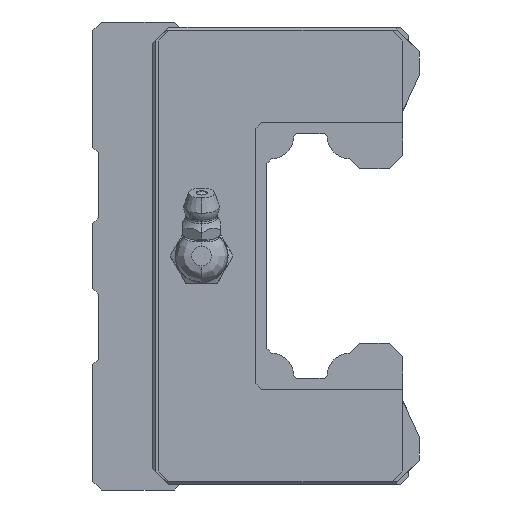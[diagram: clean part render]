
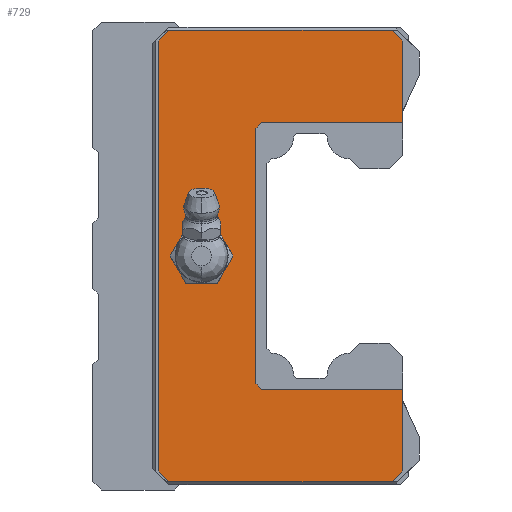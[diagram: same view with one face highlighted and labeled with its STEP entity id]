
A CAD part, left-side view. The second image highlights one B-rep face of the part: STEP entity #729.
In plain terms, the highlighted planar face has unit normal (-1, 0, 0).
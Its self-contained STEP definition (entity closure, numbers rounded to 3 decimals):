
#19 = EDGE_CURVE ( 'NONE', #4120, #2886, #4048, .T. ) ;
#55 = VECTOR ( 'NONE', #6844, 1000. ) ;
#68 = DIRECTION ( 'NONE',  ( 0., -0.707, 0.707 ) ) ;
#132 = CARTESIAN_POINT ( 'NONE',  ( -68., 58., 39.5 ) ) ;
#200 = EDGE_LOOP ( 'NONE', ( #3987, #1244, #5033, #3670, #1197, #5395, #2801, #3281, #5350, #460, #7862, #6059, #700, #309 ) ) ;
#216 = LINE ( 'NONE', #1596, #3353 ) ;
#228 = EDGE_CURVE ( 'NONE', #715, #1853, #6991, .T. ) ;
#235 = VERTEX_POINT ( 'NONE', #3933 ) ;
#309 = ORIENTED_EDGE ( 'NONE', *, *, #2696, .T. ) ;
#320 = VECTOR ( 'NONE', #1275, 1000. ) ;
#369 = DIRECTION ( 'NONE',  ( 0., -0.707, -0.707 ) ) ;
#424 = VECTOR ( 'NONE', #369, 1000. ) ;
#460 = ORIENTED_EDGE ( 'NONE', *, *, #2122, .T. ) ;
#488 = LINE ( 'NONE', #1682, #2569 ) ;
#507 = LINE ( 'NONE', #4003, #6034 ) ;
#529 = VERTEX_POINT ( 'NONE', #7470 ) ;
#571 = DIRECTION ( 'NONE',  ( 0., 0., 1. ) ) ;
#700 = ORIENTED_EDGE ( 'NONE', *, *, #2011, .T. ) ;
#708 = EDGE_CURVE ( 'NONE', #7189, #961, #4121, .T. ) ;
#715 = VERTEX_POINT ( 'NONE', #7100 ) ;
#729 = ADVANCED_FACE ( 'NONE', ( #2254, #1619 ), #2783, .F. ) ;
#834 = EDGE_LOOP ( 'NONE', ( #2347, #3882 ) ) ;
#848 = DIRECTION ( 'NONE',  ( 0., 0.707, -0.707 ) ) ;
#863 = CARTESIAN_POINT ( 'NONE',  ( -68., 15., -41.5 ) ) ;
#885 = DIRECTION ( 'NONE',  ( 0., 0.707, 0.707 ) ) ;
#894 = EDGE_CURVE ( 'NONE', #2692, #715, #2565, .T. ) ;
#961 = VERTEX_POINT ( 'NONE', #863 ) ;
#976 = CARTESIAN_POINT ( 'NONE',  ( -68., 56., -41.5 ) ) ;
#1197 = ORIENTED_EDGE ( 'NONE', *, *, #3400, .T. ) ;
#1244 = ORIENTED_EDGE ( 'NONE', *, *, #4142, .T. ) ;
#1275 = DIRECTION ( 'NONE',  ( 0., 0., 1. ) ) ;
#1369 = CARTESIAN_POINT ( 'NONE',  ( -68., 40., 23.5 ) ) ;
#1398 = VERTEX_POINT ( 'NONE', #3252 ) ;
#1400 = CARTESIAN_POINT ( 'NONE',  ( -68., 15., 41.5 ) ) ;
#1460 = VERTEX_POINT ( 'NONE', #7151 ) ;
#1551 = CARTESIAN_POINT ( 'NONE',  ( -68., 50., 4.864 ) ) ;
#1596 = CARTESIAN_POINT ( 'NONE',  ( -68., 58., 39.5 ) ) ;
#1619 = FACE_BOUND ( 'NONE', #834, .T. ) ;
#1646 = CARTESIAN_POINT ( 'NONE',  ( -68., 39., -24.5 ) ) ;
#1682 = CARTESIAN_POINT ( 'NONE',  ( -68., 40., -23.5 ) ) ;
#1705 = VECTOR ( 'NONE', #6323, 1000. ) ;
#1826 = CARTESIAN_POINT ( 'NONE',  ( -68., 13., -39.5 ) ) ;
#1853 = VERTEX_POINT ( 'NONE', #6650 ) ;
#1966 = VERTEX_POINT ( 'NONE', #1826 ) ;
#1974 = CARTESIAN_POINT ( 'NONE',  ( -68., 13., -39.5 ) ) ;
#1975 = CARTESIAN_POINT ( 'NONE',  ( -68., 13., 39.5 ) ) ;
#1992 = CARTESIAN_POINT ( 'NONE',  ( -68., 50., -4.864 ) ) ;
#2011 = EDGE_CURVE ( 'NONE', #6807, #529, #6767, .T. ) ;
#2094 = LINE ( 'NONE', #4521, #5516 ) ;
#2118 = LINE ( 'NONE', #2791, #424 ) ;
#2122 = EDGE_CURVE ( 'NONE', #961, #1966, #7459, .T. ) ;
#2166 = EDGE_CURVE ( 'NONE', #2874, #6807, #5283, .T. ) ;
#2191 = AXIS2_PLACEMENT_3D ( 'NONE', #5247, #4031, #4155 ) ;
#2220 = DIRECTION ( 'NONE',  ( 1., 0., 0. ) ) ;
#2237 = CARTESIAN_POINT ( 'NONE',  ( -68., 39., 24.5 ) ) ;
#2254 = FACE_OUTER_BOUND ( 'NONE', #200, .T. ) ;
#2332 = CARTESIAN_POINT ( 'NONE',  ( -68., 10., 0. ) ) ;
#2347 = ORIENTED_EDGE ( 'NONE', *, *, #5368, .T. ) ;
#2530 = AXIS2_PLACEMENT_3D ( 'NONE', #4185, #6630, #6679 ) ;
#2565 = LINE ( 'NONE', #1975, #5211 ) ;
#2569 = VECTOR ( 'NONE', #571, 1000. ) ;
#2692 = VERTEX_POINT ( 'NONE', #7638 ) ;
#2696 = EDGE_CURVE ( 'NONE', #529, #1460, #488, .T. ) ;
#2783 = PLANE ( 'NONE',  #4047 ) ;
#2791 = CARTESIAN_POINT ( 'NONE',  ( -68., 56., -41.5 ) ) ;
#2801 = ORIENTED_EDGE ( 'NONE', *, *, #5683, .T. ) ;
#2874 = VERTEX_POINT ( 'NONE', #7026 ) ;
#2886 = VERTEX_POINT ( 'NONE', #1551 ) ;
#2891 = EDGE_CURVE ( 'NONE', #1398, #7278, #216, .T. ) ;
#2903 = EDGE_CURVE ( 'NONE', #235, #7189, #2118, .T. ) ;
#3170 = DIRECTION ( 'NONE',  ( 0., 0.707, 0.707 ) ) ;
#3252 = CARTESIAN_POINT ( 'NONE',  ( -68., 56., 41.5 ) ) ;
#3281 = ORIENTED_EDGE ( 'NONE', *, *, #2903, .T. ) ;
#3353 = VECTOR ( 'NONE', #848, 1000. ) ;
#3387 = DIRECTION ( 'NONE',  ( 0., -1., 0. ) ) ;
#3400 = EDGE_CURVE ( 'NONE', #1853, #1398, #507, .T. ) ;
#3532 = CARTESIAN_POINT ( 'NONE',  ( -68., 15., -41.5 ) ) ;
#3670 = ORIENTED_EDGE ( 'NONE', *, *, #228, .T. ) ;
#3882 = ORIENTED_EDGE ( 'NONE', *, *, #19, .T. ) ;
#3933 = CARTESIAN_POINT ( 'NONE',  ( -68., 58., -39.5 ) ) ;
#3987 = ORIENTED_EDGE ( 'NONE', *, *, #6863, .T. ) ;
#4003 = CARTESIAN_POINT ( 'NONE',  ( -68., 56., 41.5 ) ) ;
#4031 = DIRECTION ( 'NONE',  ( 1., 0., 0. ) ) ;
#4047 = AXIS2_PLACEMENT_3D ( 'NONE', #2332, #2220, #5296 ) ;
#4048 = CIRCLE ( 'NONE', #2530, 4.864 ) ;
#4120 = VERTEX_POINT ( 'NONE', #1992 ) ;
#4121 = LINE ( 'NONE', #3532, #6876 ) ;
#4142 = EDGE_CURVE ( 'NONE', #5204, #2692, #7353, .T. ) ;
#4155 = DIRECTION ( 'NONE',  ( 0., 0., -1. ) ) ;
#4185 = CARTESIAN_POINT ( 'NONE',  ( -68., 50., 0. ) ) ;
#4224 = VECTOR ( 'NONE', #885, 1000. ) ;
#4334 = CARTESIAN_POINT ( 'NONE',  ( -68., 39., 24.5 ) ) ;
#4387 = LINE ( 'NONE', #1369, #5112 ) ;
#4400 = EDGE_CURVE ( 'NONE', #1966, #2874, #6742, .T. ) ;
#4434 = DIRECTION ( 'NONE',  ( 0., 0., 1. ) ) ;
#4521 = CARTESIAN_POINT ( 'NONE',  ( -68., 58., -39.5 ) ) ;
#4728 = VECTOR ( 'NONE', #3170, 1000. ) ;
#4850 = CARTESIAN_POINT ( 'NONE',  ( -68., 13., 39.5 ) ) ;
#4951 = CARTESIAN_POINT ( 'NONE',  ( -68., 39., -24.5 ) ) ;
#5033 = ORIENTED_EDGE ( 'NONE', *, *, #894, .T. ) ;
#5112 = VECTOR ( 'NONE', #68, 1000. ) ;
#5166 = DIRECTION ( 'NONE',  ( 0., 1., 0. ) ) ;
#5204 = VERTEX_POINT ( 'NONE', #2237 ) ;
#5211 = VECTOR ( 'NONE', #4434, 1000. ) ;
#5247 = CARTESIAN_POINT ( 'NONE',  ( -68., 50., 0. ) ) ;
#5283 = LINE ( 'NONE', #5881, #5521 ) ;
#5296 = DIRECTION ( 'NONE',  ( 0., 1., 0. ) ) ;
#5350 = ORIENTED_EDGE ( 'NONE', *, *, #708, .T. ) ;
#5368 = EDGE_CURVE ( 'NONE', #2886, #4120, #5642, .T. ) ;
#5395 = ORIENTED_EDGE ( 'NONE', *, *, #2891, .T. ) ;
#5516 = VECTOR ( 'NONE', #6968, 1000. ) ;
#5521 = VECTOR ( 'NONE', #5166, 1000. ) ;
#5642 = CIRCLE ( 'NONE', #2191, 4.864 ) ;
#5683 = EDGE_CURVE ( 'NONE', #7278, #235, #2094, .T. ) ;
#5881 = CARTESIAN_POINT ( 'NONE',  ( -68., 13., -24.5 ) ) ;
#6034 = VECTOR ( 'NONE', #7101, 1000. ) ;
#6059 = ORIENTED_EDGE ( 'NONE', *, *, #2166, .T. ) ;
#6323 = DIRECTION ( 'NONE',  ( 0., -1., 0. ) ) ;
#6630 = DIRECTION ( 'NONE',  ( 1., 0., 0. ) ) ;
#6650 = CARTESIAN_POINT ( 'NONE',  ( -68., 15., 41.5 ) ) ;
#6679 = DIRECTION ( 'NONE',  ( 0., 0., -1. ) ) ;
#6742 = LINE ( 'NONE', #4850, #320 ) ;
#6767 = LINE ( 'NONE', #4951, #4728 ) ;
#6807 = VERTEX_POINT ( 'NONE', #1646 ) ;
#6844 = DIRECTION ( 'NONE',  ( 0., -0.707, 0.707 ) ) ;
#6863 = EDGE_CURVE ( 'NONE', #1460, #5204, #4387, .T. ) ;
#6876 = VECTOR ( 'NONE', #3387, 1000. ) ;
#6968 = DIRECTION ( 'NONE',  ( 0., 0., -1. ) ) ;
#6991 = LINE ( 'NONE', #1400, #4224 ) ;
#7026 = CARTESIAN_POINT ( 'NONE',  ( -68., 13., -24.5 ) ) ;
#7100 = CARTESIAN_POINT ( 'NONE',  ( -68., 13., 39.5 ) ) ;
#7101 = DIRECTION ( 'NONE',  ( 0., 1., 0. ) ) ;
#7151 = CARTESIAN_POINT ( 'NONE',  ( -68., 40., 23.5 ) ) ;
#7189 = VERTEX_POINT ( 'NONE', #976 ) ;
#7278 = VERTEX_POINT ( 'NONE', #132 ) ;
#7353 = LINE ( 'NONE', #4334, #1705 ) ;
#7459 = LINE ( 'NONE', #1974, #55 ) ;
#7470 = CARTESIAN_POINT ( 'NONE',  ( -68., 40., -23.5 ) ) ;
#7638 = CARTESIAN_POINT ( 'NONE',  ( -68., 13., 24.5 ) ) ;
#7862 = ORIENTED_EDGE ( 'NONE', *, *, #4400, .T. ) ;
